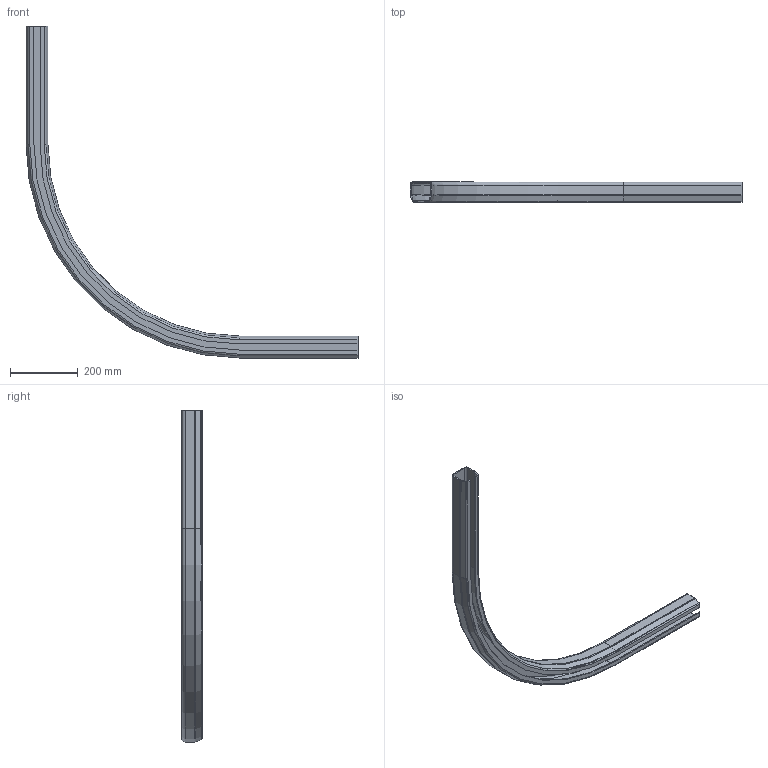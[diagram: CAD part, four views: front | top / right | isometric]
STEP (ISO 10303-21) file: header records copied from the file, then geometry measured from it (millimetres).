
FILE_DESCRIPTION(/* description */ (''),/* implementation_level */ '2;1');
FILE_NAME(/* name */ 'Q:\sge-ma\Produktmanagement-STB\STB\Workspace\stp\010337045.stp',/* time_stamp */ '2015-07-09T13:01:25+02:00',/* author */ ('avschreier'),/* organization */ (''),/* preprocessor_version */ 'ST-DEVELOPER v15.6',/* originating_system */ 'Autodesk Inventor 2015',/* authorisation */ '');
FILE_SCHEMA (('CONFIG_CONTROL_DESIGN'));
Length unit declared in the file: millimetre
Products named in the file (1): 010337045
Bounding box: 982.5 x 60 x 982.5 mm (x, y, z)
Volume: 1170561.9 mm3; surface area: 663563.3 mm2
Topology: 1 solids, 1 shells, 74 faces, 184 edges, 112 vertices
Faces by surface type: cylinder 30, plane 28, torus 12, cone 4
Entity records: 2212 total; most frequent: DIRECTION 410, CARTESIAN_POINT 371, ORIENTED_EDGE 368, EDGE_CURVE 184, AXIS2_PLACEMENT_3D 151, VERTEX_POINT 112, LINE 108, VECTOR 108
